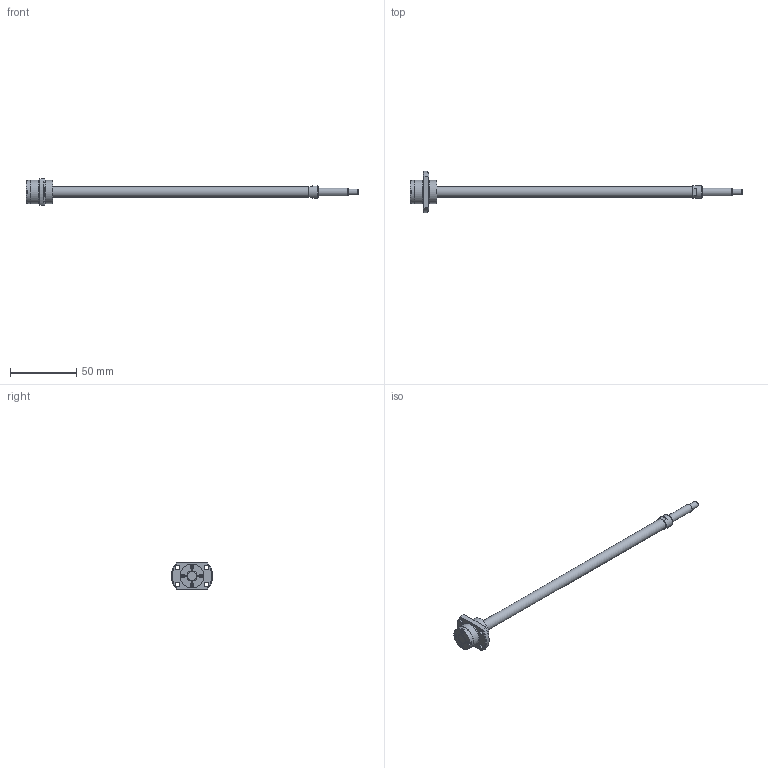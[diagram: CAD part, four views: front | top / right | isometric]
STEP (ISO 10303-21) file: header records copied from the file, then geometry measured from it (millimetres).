
FILE_DESCRIPTION( ( 'STEP AP203' ), '1' );
FILE_NAME( 'e:/temp/worker_93/temp/exporttempdir_5268_1008_YnzrV/format_0/SG0808-209R250C5A1X(0).stp', '2021-10-19T02:50:34', ( 'License CC BY-ND 4.0' ), ( 'CADENAS' ), ' ', 'PARTsolutions', ' ' );
FILE_SCHEMA( ( 'CONFIG_CONTROL_DESIGN' ) );
Length unit declared in the file: millimetre
Products named in the file (3): SG0808-209R250C5A1X(0); _SG0808-209R250C5A_shaft; _SG0808 C5_nut
Assembly tree (2 placements, depth 2):
  SG0808-209R250C5A1X(0)
    _SG0808-209R250C5A_shaft
    _SG0808 C5_nut
Bounding box: 250 x 30.91 x 20 mm (x, y, z)
Volume: 16967.3 mm3; surface area: 9178.3 mm2
Topology: 2 solids, 2 shells, 100 faces, 231 edges, 150 vertices
Faces by surface type: plane 63, cylinder 24, cone 12, torus 1
Full cylindrical faces by diameter (mm): 2.25 x4, 3.4 x4, 4.5 x1, 6 x1, 8 x2, 9.5 x1, 17.45 x3, 18 x2
Entity records: 2814 total; most frequent: CARTESIAN_POINT 477, DIRECTION 472, ORIENTED_EDGE 404, EDGE_CURVE 202, AXIS2_PLACEMENT_3D 175, EDGE_LOOP 152, VERTEX_POINT 148, LINE 122
